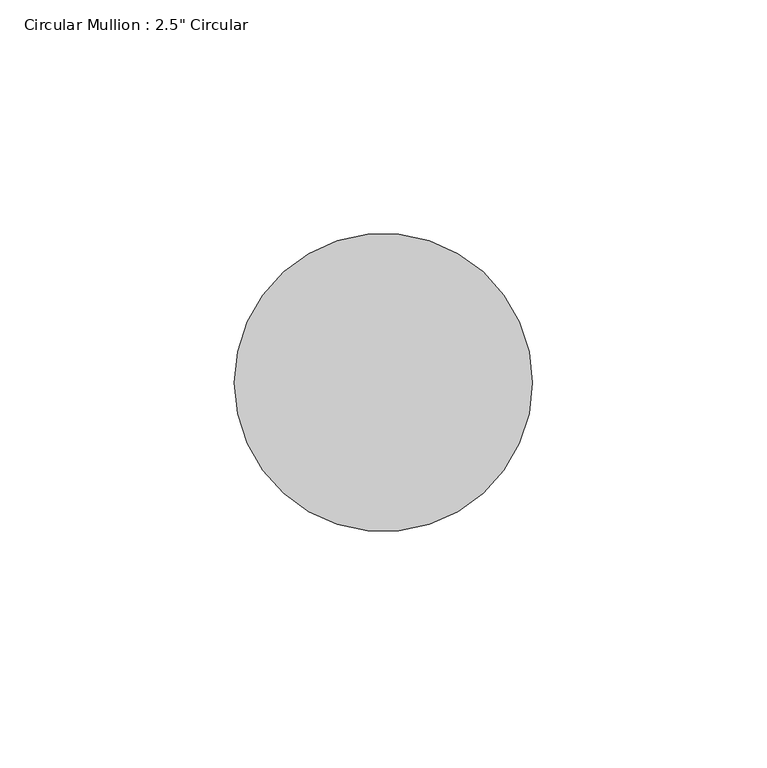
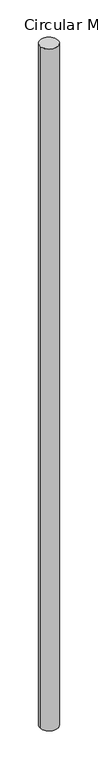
"""IFC4 building model written with IfcOpenShell, lengths in millimetres: member geometry."""

import ifcopenshell
import ifcopenshell.guid

model = None  # the IFC model being written
_history = None  # IfcOwnerHistory: only IFC2X3 demands one
_inside = {}  # id of a spatial element -> (the spatial element, [elements in it])
_under = {}  # id of a project, library or spatial element -> (it, [spatial elements below it])
_declared = {}  # id of a project -> (the project, [libraries it declares])
_typed = {}  # id of a type object -> (the type object, [elements of that type])
_made_of = {}  # id of a material, layer set ... -> (it, [elements and type objects made of it])


def new_model(schema):
    """Start an empty IFC model of exactly this schema.

    Asked for "IFC4X3", IfcOpenShell would pick the latest addendum, in which some entities
    have other attributes; the version numbers below select the first issue.
    IFC2X3 requires an IfcOwnerHistory on every rooted entity: one is made here for all.
    """
    global model, _history
    if schema == "IFC4X3":
        model = ifcopenshell.file(schema_version=(4, 3, 0, 0))
    else:
        model = ifcopenshell.file(schema=schema)
    _inside.clear()
    _under.clear()
    _declared.clear()
    _typed.clear()
    _made_of.clear()
    _history = None
    if model.schema == "IFC2X3":
        org = make("IfcOrganization", Name="unknown")
        user = make(
            "IfcPersonAndOrganization",
            ThePerson=make("IfcPerson", FamilyName="unknown"),
            TheOrganization=org,
        )
        app = make(
            "IfcApplication",
            ApplicationDeveloper=org,
            Version="unknown",
            ApplicationFullName="unknown",
            ApplicationIdentifier="unknown",
        )
        _history = make(
            "IfcOwnerHistory",
            OwningUser=user,
            OwningApplication=app,
            ChangeAction="ADDED",
            CreationDate=0,
        )
    return model


def make(cls, **values):
    """One entity of the class cls with the attributes given. An attribute that is None is left unset."""
    return model.create_entity(
        cls, **{name: value for name, value in values.items() if value is not None}
    )


def rooted(cls, **values):
    """An entity with a GlobalId (a new one), such as an element, a storey or a relation."""
    return make(cls, GlobalId=ifcopenshell.guid.new(), OwnerHistory=_history, **values)


def si_unit(unit_type, name, prefix=None):
    """IfcSIUnit, for example si_unit("LENGTHUNIT", "METRE", prefix="MILLI")."""
    return make("IfcSIUnit", UnitType=unit_type, Prefix=prefix, Name=name)


def assignment(units):
    """IfcUnitAssignment: the units of a project."""
    return None if units is None else make("IfcUnitAssignment", Units=units)


def point(xyz):
    """IfcCartesianPoint."""
    return None if xyz is None else make("IfcCartesianPoint", Coordinates=xyz)


def direction(xyz):
    """IfcDirection."""
    return None if xyz is None else make("IfcDirection", DirectionRatios=xyz)


def frame(location, z_axis=None, x_axis=None):
    """IfcAxis2Placement3D, a coordinate frame: its origin and axes. An axis left out is left unset."""
    return make(
        "IfcAxis2Placement3D",
        Location=point(location),
        Axis=direction(z_axis),
        RefDirection=direction(x_axis),
    )


def frame_2d(location, x_axis=None):
    """IfcAxis2Placement2D, a coordinate frame in the plane: its origin and x axis."""
    return make(
        "IfcAxis2Placement2D", Location=point(location), RefDirection=direction(x_axis)
    )


def origin():
    """The frame at (0, 0, 0) with its axes left unset."""
    return frame((0.0, 0.0, 0.0))


def origin_2d():
    """The frame at (0, 0) in the plane with its x axis left unset."""
    return frame_2d((0.0, 0.0))


def place(relative_to, where):
    """IfcLocalPlacement: puts the frame where relative to a parent placement (None: the world)."""
    return make(
        "IfcLocalPlacement", PlacementRelTo=relative_to, RelativePlacement=where
    )


def context(
    kind, dimensions, precision=None, world=None, true_north=None, identifier=None
):
    """IfcGeometricRepresentationContext, for example the 3D "Model" context."""
    return make(
        "IfcGeometricRepresentationContext",
        ContextIdentifier=identifier,
        ContextType=kind,
        CoordinateSpaceDimension=dimensions,
        Precision=precision,
        WorldCoordinateSystem=world,
        TrueNorth=true_north,
    )


def project(units=None, contexts=None):
    """IfcProject with its units and contexts."""
    return rooted(
        "IfcProject",
        Name="project",
        RepresentationContexts=contexts,
        UnitsInContext=assignment(units),
    )


def spatial(cls, under=None, at=None, **own):
    """A site, building, storey or space (cls), placed at a placement, below another one or the project."""
    s = rooted(cls, ObjectPlacement=at, **own)
    if under is not None:
        _under.setdefault(under.id(), (under, []))[1].append(s)
    return s


def circle_curve(where, radius):
    """IfcCircle in the frame where."""
    return make("IfcCircle", Position=where, Radius=radius)


def trimmed(basis, trim1, trim2, sense, master):
    """IfcTrimmedCurve: the piece of a basis curve between two trims."""
    return make(
        "IfcTrimmedCurve",
        BasisCurve=basis,
        Trim1=trim1,
        Trim2=trim2,
        SenseAgreement=sense,
        MasterRepresentation=master,
    )


def segment(curve, same_sense, transition):
    """IfcCompositeCurveSegment."""
    return make(
        "IfcCompositeCurveSegment",
        Transition=transition,
        SameSense=same_sense,
        ParentCurve=curve,
    )


def composite_curve(segments, self_intersect=None):
    """IfcCompositeCurve: segments joined end to end."""
    return make("IfcCompositeCurve", Segments=segments, SelfIntersect=self_intersect)


def outline(outer, holes=None, kind="AREA"):
    """IfcArbitraryClosedProfileDef: a profile drawn as a closed curve; with holes, ...WithVoids."""
    if holes is None:
        return make("IfcArbitraryClosedProfileDef", ProfileType=kind, OuterCurve=outer)
    return make(
        "IfcArbitraryProfileDefWithVoids",
        ProfileType=kind,
        OuterCurve=outer,
        InnerCurves=holes,
    )


def extrude(swept, where, along, depth):
    """IfcExtrudedAreaSolid: the profile swept, set in the frame where, extruded along a direction by depth."""
    return make(
        "IfcExtrudedAreaSolid",
        SweptArea=swept,
        Position=where,
        ExtrudedDirection=direction(along),
        Depth=depth,
    )


def shape(context_of_items, identifier, shape_type, items):
    """IfcShapeRepresentation: the items that make up one representation, for example the "Body"."""
    return make(
        "IfcShapeRepresentation",
        ContextOfItems=context_of_items,
        RepresentationIdentifier=identifier,
        RepresentationType=shape_type,
        Items=items,
    )


def source(mapping_origin, context_of_items, identifier, shape_type, items):
    """IfcRepresentationMap: a shape defined once, which mapped items show again and again."""
    return make(
        "IfcRepresentationMap",
        MappingOrigin=mapping_origin,
        MappedRepresentation=shape(context_of_items, identifier, shape_type, items),
    )


def transform(
    local_origin,
    x_axis=None,
    y_axis=None,
    z_axis=None,
    scale=None,
    scale2=None,
    scale3=None,
    uniform=True,
):
    """IfcCartesianTransformationOperator3D, or its non-uniform kind. x_axis, y_axis, z_axis: its Axis1, 2, 3."""
    if uniform:
        return make(
            "IfcCartesianTransformationOperator3D",
            Axis1=direction(x_axis),
            Axis2=direction(y_axis),
            LocalOrigin=point(local_origin),
            Scale=scale,
            Axis3=direction(z_axis),
        )
    return make(
        "IfcCartesianTransformationOperator3DnonUniform",
        Axis1=direction(x_axis),
        Axis2=direction(y_axis),
        LocalOrigin=point(local_origin),
        Scale=scale,
        Axis3=direction(z_axis),
        Scale2=scale2,
        Scale3=scale3,
    )


def mapped(mapping_source, mapping_target):
    """IfcMappedItem: shows the shape of a source again, moved by a transform."""
    return make(
        "IfcMappedItem", MappingSource=mapping_source, MappingTarget=mapping_target
    )


def made_of(thing, what):
    """Note that an element or type object is made of a material, layer set ...; save() writes the relation."""
    if what is not None:
        _made_of.setdefault(what.id(), (what, []))[1].append(thing)
    return thing


def element(
    cls,
    number,
    at=None,
    inside=None,
    cuts=None,
    type_object=None,
    material=None,
    context=None,
    identifier="Body",
    shape_type=None,
    held_by="IfcProductDefinitionShape",
    body=None,
    shapes=None,
    **own,
):
    """One element of the class cls, such as IfcWall. Its Tag is "e" and its number.

    at: its placement. inside: the storey or other place that contains it. cuts: it is an
    opening in that element (IfcRelVoidsElement). A single representation is given by context,
    identifier, shape_type and body (its items); several are given by shapes. held_by: the class
    of the entity that holds the representations. save() writes the other relations.
    """
    e = rooted(cls, Tag="e%d" % number, ObjectPlacement=at, **own)
    if body is not None:
        shapes = [shape(context, identifier, shape_type, body)]
    if shapes is not None:
        e.Representation = make(held_by, Representations=shapes)
    if inside is not None:
        _inside.setdefault(inside.id(), (inside, []))[1].append(e)
    if cuts is not None:
        rooted(
            "IfcRelVoidsElement", RelatingBuildingElement=cuts, RelatedOpeningElement=e
        )
    if type_object is not None:
        _typed.setdefault(type_object.id(), (type_object, []))[1].append(e)
    return made_of(e, material)


def aggregate(whole, parts):
    """IfcRelAggregates: a whole, such as a stair, and the parts it consists of."""
    return rooted("IfcRelAggregates", RelatingObject=whole, RelatedObjects=parts)


def save(model, path):
    """Write the relations noted so far, then the file.

    IfcRelAggregates (storeys below a building ...), IfcRelContainedInSpatialStructure (elements
    in a storey), IfcRelDefinesByType, IfcRelAssociatesMaterial and IfcRelDeclares: one each for
    every whole, place, type object, material and project.
    """
    for whole, parts in _under.values():
        aggregate(whole, parts)
    for where, things in _inside.values():
        rooted(
            "IfcRelContainedInSpatialStructure",
            RelatedElements=things,
            RelatingStructure=where,
        )
    for kind, things in _typed.values():
        rooted("IfcRelDefinesByType", RelatedObjects=things, RelatingType=kind)
    for what, things in _made_of.values():
        rooted("IfcRelAssociatesMaterial", RelatedObjects=things, RelatingMaterial=what)
    for by, libraries in _declared.values():
        rooted("IfcRelDeclares", RelatingContext=by, RelatedDefinitions=libraries)
    model.write(path)


def member_44664120(model_context):
    return source(origin(), model_context, "Body", "SweptSolid", [
        extrude(outline(composite_curve([segment(trimmed(circle_curve(origin_2d(), 31.75), [point((31.75, 0.0))], [point((-31.75, 0.0))], False, "CARTESIAN"), True, "CONTINUOUS"), segment(trimmed(circle_curve(origin_2d(), 31.75), [point((-31.75, 0.0))], [point((31.75, 0.0))], False, "CARTESIAN"), True, "CONTINUOUS")], self_intersect=False)), frame((0.0, 0.0, -2530.7065872), z_axis=(0.0, 0.0, 1.0), x_axis=(1.0, 0.0, 0.0)), (0.0, 0.0, 1.0), 2530.7065872),
    ])


if __name__ == "__main__":
    model = new_model("IFC4")
    model_context = context("Model", 3, world=origin())
    ifc_project = project(units=[si_unit("LENGTHUNIT", "METRE", prefix="MILLI")], contexts=[model_context])
    site = spatial("IfcSite", under=ifc_project)
    building = spatial("IfcBuilding", under=site)
    placement = place(None, origin())
    member_shape = member_44664120(model_context)
    element("IfcMember", 1, ObjectType="Circular Mullion : 2.5\" Circular", at=placement, inside=building, context=model_context, shape_type="MappedRepresentation", body=[
        mapped(member_shape, transform((0.0, 0.0, 0.0), x_axis=(1.0, 0.0, 0.0), y_axis=(0.0, 1.0, 0.0), z_axis=(0.0, 0.0, 1.0))),
    ])
    save(model, "model.ifc")
